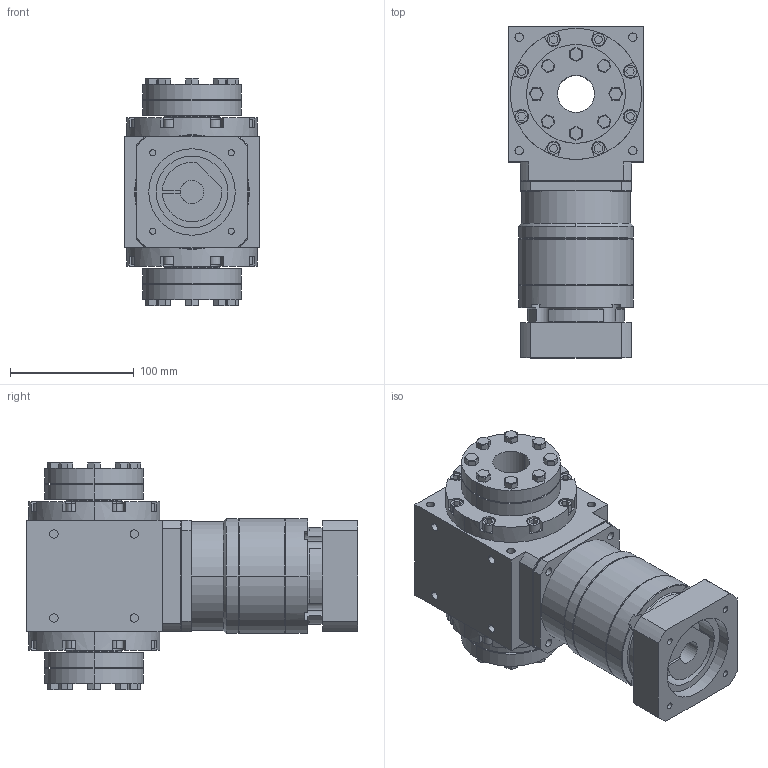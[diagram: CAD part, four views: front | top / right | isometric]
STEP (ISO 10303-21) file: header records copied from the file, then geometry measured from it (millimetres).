
FILE_DESCRIPTION (( 'STEP AP203' ), '1' );
FILE_NAME ('AAW110AS-L2-2HP 19-70-90-M6.STEP', '2024-12-24T02:54:13', ( '' ), ( '' ), 'SwSTEP 2.0', 'SolidWorks 2021', '' );
FILE_SCHEMA (( 'CONFIG_CONTROL_DESIGN' ));
Length unit declared in the file: millimetre
Products named in the file (3): AAW110AS-2HP; AAW110AS-L2-2HP 19-70-90-M6; VRB-090-L2-S2-P1 19-70-90-M6
Assembly tree (2 placements, depth 2):
  AAW110AS-L2-2HP 19-70-90-M6
    AAW110AS-2HP
    VRB-090-L2-S2-P1 19-70-90-M6
Bounding box: 110 x 268.5 x 184 mm (x, y, z)
Volume: 2497859.3 mm3; surface area: 220254.1 mm2
Topology: 2 solids, 2 shells, 639 faces, 1554 edges, 1007 vertices
Faces by surface type: plane 416, cylinder 180, cone 39, bspline 4
Entity records: 19054 total; most frequent: CARTESIAN_POINT 3397, DIRECTION 3243, ORIENTED_EDGE 3108, EDGE_CURVE 1554, AXIS2_PLACEMENT_3D 1093, LINE 1057, VECTOR 1057, VERTEX_POINT 1007
